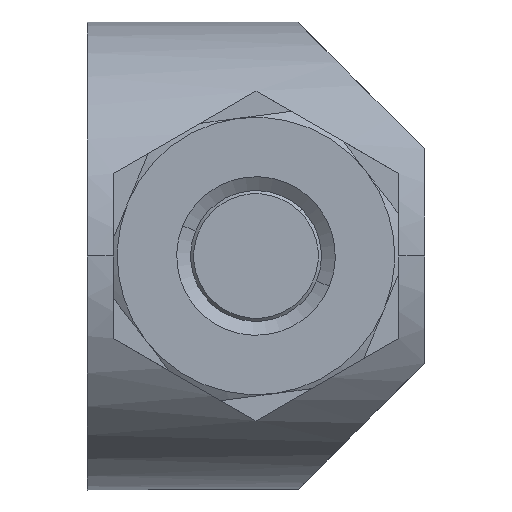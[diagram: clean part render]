
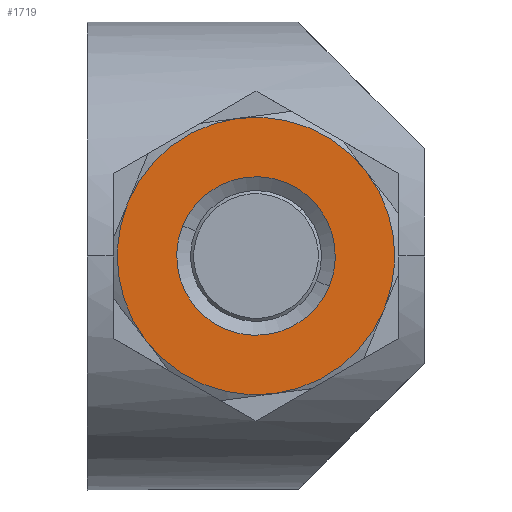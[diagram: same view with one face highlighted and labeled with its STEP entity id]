
A CAD part, left-side view. The second image highlights one B-rep face of the part: STEP entity #1719.
In plain terms, the highlighted planar face has unit normal (-1, 0, 0) as drawn and (1, 0, 0) by its records, which use the part's own axes.
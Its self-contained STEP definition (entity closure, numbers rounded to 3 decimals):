
#6 = AXIS2_PLACEMENT_3D ( 'NONE', #930, #1179, #1235 ) ;
#16 = CIRCLE ( 'NONE', #2653, 3.5 ) ;
#143 = DIRECTION ( 'NONE',  ( 0., 0., -1. ) ) ;
#158 = DIRECTION ( 'NONE',  ( -1., 0., 0. ) ) ;
#164 = CARTESIAN_POINT ( 'NONE',  ( 19.1, 0., 4.25 ) ) ;
#213 = CIRCLE ( 'NONE', #3330, 3.5 ) ;
#216 = CIRCLE ( 'NONE', #3008, 2. ) ;
#310 = CIRCLE ( 'NONE', #2598, 3.5 ) ;
#504 = DIRECTION ( 'NONE',  ( 1., 0., 0. ) ) ;
#567 = CARTESIAN_POINT ( 'NONE',  ( 19.1, -3.031, 6. ) ) ;
#636 = VERTEX_POINT ( 'NONE', #752 ) ;
#657 = DIRECTION ( 'NONE',  ( 0., 0., 1. ) ) ;
#669 = CARTESIAN_POINT ( 'NONE',  ( 19.1, 0., 6.25 ) ) ;
#752 = CARTESIAN_POINT ( 'NONE',  ( 19.1, 0., 7.75 ) ) ;
#859 = PLANE ( 'NONE',  #6 ) ;
#920 = CIRCLE ( 'NONE', #2602, 3.5 ) ;
#930 = CARTESIAN_POINT ( 'NONE',  ( 19.1, 0., 11.25 ) ) ;
#939 = VERTEX_POINT ( 'NONE', #669 ) ;
#970 = CIRCLE ( 'NONE', #2669, 3.5 ) ;
#1094 = CARTESIAN_POINT ( 'NONE',  ( 19.1, 0., 2.25 ) ) ;
#1167 = ORIENTED_EDGE ( 'NONE', *, *, #3122, .T. ) ;
#1179 = DIRECTION ( 'NONE',  ( 1., 0., 0. ) ) ;
#1235 = DIRECTION ( 'NONE',  ( 0., 1., 0. ) ) ;
#1321 = CIRCLE ( 'NONE', #2703, 3.5 ) ;
#1619 = CARTESIAN_POINT ( 'NONE',  ( 19.1, 0., 4.25 ) ) ;
#1713 = CIRCLE ( 'NONE', #2730, 2. ) ;
#1719 = ADVANCED_FACE ( 'NONE', ( #3608, #3428 ), #859, .T. ) ;
#1873 = VERTEX_POINT ( 'NONE', #2118 ) ;
#1948 = DIRECTION ( 'NONE',  ( 1., 0., 0. ) ) ;
#1990 = EDGE_LOOP ( 'NONE', ( #3838, #3692, #2903, #3556, #3647, #1167 ) ) ;
#2118 = CARTESIAN_POINT ( 'NONE',  ( 19.1, 0., 0.75 ) ) ;
#2447 = CARTESIAN_POINT ( 'NONE',  ( 19.1, 0., 4.25 ) ) ;
#2465 = CARTESIAN_POINT ( 'NONE',  ( 19.1, 3.031, 6. ) ) ;
#2469 = EDGE_CURVE ( 'NONE', #3507, #939, #216, .T. ) ;
#2488 = CARTESIAN_POINT ( 'NONE',  ( 19.1, 0., 4.25 ) ) ;
#2507 = DIRECTION ( 'NONE',  ( -1., 0., 0. ) ) ;
#2574 = CARTESIAN_POINT ( 'NONE',  ( 19.1, 0., 4.25 ) ) ;
#2598 = AXIS2_PLACEMENT_3D ( 'NONE', #3542, #504, #3494 ) ;
#2602 = AXIS2_PLACEMENT_3D ( 'NONE', #2447, #2793, #2828 ) ;
#2653 = AXIS2_PLACEMENT_3D ( 'NONE', #2488, #2802, #3686 ) ;
#2660 = ORIENTED_EDGE ( 'NONE', *, *, #2469, .T. ) ;
#2666 = EDGE_LOOP ( 'NONE', ( #2660, #3639 ) ) ;
#2669 = AXIS2_PLACEMENT_3D ( 'NONE', #2574, #2835, #657 ) ;
#2703 = AXIS2_PLACEMENT_3D ( 'NONE', #3773, #3858, #3250 ) ;
#2730 = AXIS2_PLACEMENT_3D ( 'NONE', #3104, #2507, #2811 ) ;
#2793 = DIRECTION ( 'NONE',  ( 1., 0., 0. ) ) ;
#2802 = DIRECTION ( 'NONE',  ( 1., 0., 0. ) ) ;
#2811 = DIRECTION ( 'NONE',  ( 0., 0., -1. ) ) ;
#2815 = VERTEX_POINT ( 'NONE', #2465 ) ;
#2828 = DIRECTION ( 'NONE',  ( 0., 0., 1. ) ) ;
#2835 = DIRECTION ( 'NONE',  ( 1., 0., 0. ) ) ;
#2865 = CARTESIAN_POINT ( 'NONE',  ( 19.1, -3.031, 2.5 ) ) ;
#2903 = ORIENTED_EDGE ( 'NONE', *, *, #3050, .T. ) ;
#3008 = AXIS2_PLACEMENT_3D ( 'NONE', #164, #158, #143 ) ;
#3050 = EDGE_CURVE ( 'NONE', #3693, #1873, #213, .T. ) ;
#3077 = EDGE_CURVE ( 'NONE', #1873, #3199, #310, .T. ) ;
#3100 = EDGE_CURVE ( 'NONE', #3199, #2815, #920, .T. ) ;
#3104 = CARTESIAN_POINT ( 'NONE',  ( 19.1, 0., 4.25 ) ) ;
#3109 = VERTEX_POINT ( 'NONE', #567 ) ;
#3122 = EDGE_CURVE ( 'NONE', #2815, #636, #16, .T. ) ;
#3136 = EDGE_CURVE ( 'NONE', #636, #3109, #970, .T. ) ;
#3148 = EDGE_CURVE ( 'NONE', #3109, #3693, #1321, .T. ) ;
#3178 = EDGE_CURVE ( 'NONE', #939, #3507, #1713, .T. ) ;
#3199 = VERTEX_POINT ( 'NONE', #3372 ) ;
#3216 = DIRECTION ( 'NONE',  ( 0., 0., 1. ) ) ;
#3250 = DIRECTION ( 'NONE',  ( 0., 0., 1. ) ) ;
#3330 = AXIS2_PLACEMENT_3D ( 'NONE', #1619, #1948, #3216 ) ;
#3372 = CARTESIAN_POINT ( 'NONE',  ( 19.1, 3.031, 2.5 ) ) ;
#3428 = FACE_OUTER_BOUND ( 'NONE', #1990, .T. ) ;
#3494 = DIRECTION ( 'NONE',  ( 0., 0., 1. ) ) ;
#3507 = VERTEX_POINT ( 'NONE', #1094 ) ;
#3542 = CARTESIAN_POINT ( 'NONE',  ( 19.1, 0., 4.25 ) ) ;
#3556 = ORIENTED_EDGE ( 'NONE', *, *, #3077, .T. ) ;
#3608 = FACE_BOUND ( 'NONE', #2666, .T. ) ;
#3639 = ORIENTED_EDGE ( 'NONE', *, *, #3178, .T. ) ;
#3647 = ORIENTED_EDGE ( 'NONE', *, *, #3100, .T. ) ;
#3686 = DIRECTION ( 'NONE',  ( 0., 0., 1. ) ) ;
#3692 = ORIENTED_EDGE ( 'NONE', *, *, #3148, .T. ) ;
#3693 = VERTEX_POINT ( 'NONE', #2865 ) ;
#3773 = CARTESIAN_POINT ( 'NONE',  ( 19.1, 0., 4.25 ) ) ;
#3838 = ORIENTED_EDGE ( 'NONE', *, *, #3136, .T. ) ;
#3858 = DIRECTION ( 'NONE',  ( 1., 0., 0. ) ) ;
